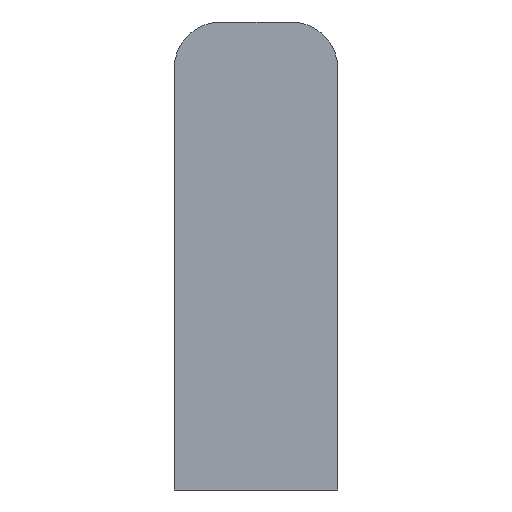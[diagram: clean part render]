
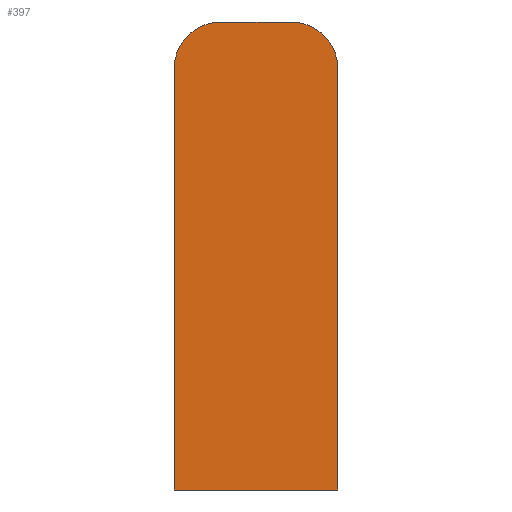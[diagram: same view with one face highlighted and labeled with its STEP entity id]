
A CAD part, front view. The second image highlights one B-rep face of the part: STEP entity #397.
In plain terms, the highlighted planar face has unit normal (0, -1, 0).
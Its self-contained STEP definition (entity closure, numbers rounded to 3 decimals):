
#3 = CARTESIAN_POINT ( 'NONE',  ( -2.25, 0., 13.5 ) ) ;
#4 = VERTEX_POINT ( 'NONE', #7 ) ;
#7 = CARTESIAN_POINT ( 'NONE',  ( -5.25, 0., 10.5 ) ) ;
#10 = VERTEX_POINT ( 'NONE', #101 ) ;
#11 = VERTEX_POINT ( 'NONE', #3 ) ;
#16 = VERTEX_POINT ( 'NONE', #96 ) ;
#18 = AXIS2_PLACEMENT_3D ( 'NONE', #139, #144, #142 ) ;
#23 = EDGE_CURVE ( 'NONE', #97, #11, #255, .T. ) ;
#30 = AXIS2_PLACEMENT_3D ( 'NONE', #185, #188, #189 ) ;
#31 = AXIS2_PLACEMENT_3D ( 'NONE', #128, #88, #90 ) ;
#40 = EDGE_CURVE ( 'NONE', #16, #10, #250, .T. ) ;
#45 = EDGE_CURVE ( 'NONE', #11, #4, #79, .T. ) ;
#50 = EDGE_CURVE ( 'NONE', #4, #95, #285, .T. ) ;
#51 = EDGE_CURVE ( 'NONE', #95, #16, #82, .T. ) ;
#52 = EDGE_CURVE ( 'NONE', #10, #97, #83, .T. ) ;
#79 = CIRCLE ( 'NONE', #18, 3. ) ;
#81 = VECTOR ( 'NONE', #154, 1000. ) ;
#82 = LINE ( 'NONE', #153, #81 ) ;
#83 = CIRCLE ( 'NONE', #31, 3. ) ;
#84 = VECTOR ( 'NONE', #151, 1000. ) ;
#88 = DIRECTION ( 'NONE',  ( 0., -1., 0. ) ) ;
#90 = DIRECTION ( 'NONE',  ( -1., 0., 0. ) ) ;
#95 = VERTEX_POINT ( 'NONE', #162 ) ;
#96 = CARTESIAN_POINT ( 'NONE',  ( 5.25, 0., -16.5 ) ) ;
#97 = VERTEX_POINT ( 'NONE', #177 ) ;
#101 = CARTESIAN_POINT ( 'NONE',  ( 5.25, 0., 10.5 ) ) ;
#114 = CARTESIAN_POINT ( 'NONE',  ( 2.25, 0., 13.5 ) ) ;
#115 = DIRECTION ( 'NONE',  ( -1., 0., 0. ) ) ;
#128 = CARTESIAN_POINT ( 'NONE',  ( 2.25, 0., 10.5 ) ) ;
#130 = CARTESIAN_POINT ( 'NONE',  ( 5.25, 0., -16.5 ) ) ;
#131 = DIRECTION ( 'NONE',  ( 0., 0., 1. ) ) ;
#139 = CARTESIAN_POINT ( 'NONE',  ( -2.25, 0., 10.5 ) ) ;
#142 = DIRECTION ( 'NONE',  ( -1., 0., 0. ) ) ;
#144 = DIRECTION ( 'NONE',  ( 0., -1., 0. ) ) ;
#151 = DIRECTION ( 'NONE',  ( 0., 0., -1. ) ) ;
#152 = CARTESIAN_POINT ( 'NONE',  ( -5.25, 0., -16.5 ) ) ;
#153 = CARTESIAN_POINT ( 'NONE',  ( 5.25, 0., -16.5 ) ) ;
#154 = DIRECTION ( 'NONE',  ( 1., 0., 0. ) ) ;
#162 = CARTESIAN_POINT ( 'NONE',  ( -5.25, 0., -16.5 ) ) ;
#177 = CARTESIAN_POINT ( 'NONE',  ( 2.25, 0., 13.5 ) ) ;
#185 = CARTESIAN_POINT ( 'NONE',  ( 0., 0., -1.5 ) ) ;
#186 = PLANE ( 'NONE',  #30 ) ;
#188 = DIRECTION ( 'NONE',  ( 0., 1., 0. ) ) ;
#189 = DIRECTION ( 'NONE',  ( -1., 0., 0. ) ) ;
#250 = LINE ( 'NONE', #130, #311 ) ;
#254 = VECTOR ( 'NONE', #115, 1000. ) ;
#255 = LINE ( 'NONE', #114, #254 ) ;
#280 = ORIENTED_EDGE ( 'NONE', *, *, #45, .T. ) ;
#285 = LINE ( 'NONE', #152, #84 ) ;
#287 = ORIENTED_EDGE ( 'NONE', *, *, #40, .T. ) ;
#304 = ORIENTED_EDGE ( 'NONE', *, *, #50, .T. ) ;
#311 = VECTOR ( 'NONE', #131, 1000. ) ;
#312 = ORIENTED_EDGE ( 'NONE', *, *, #23, .T. ) ;
#313 = ORIENTED_EDGE ( 'NONE', *, *, #52, .T. ) ;
#331 = ORIENTED_EDGE ( 'NONE', *, *, #51, .T. ) ;
#332 = EDGE_LOOP ( 'NONE', ( #287, #313, #312, #280, #304, #331 ) ) ;
#371 = FACE_OUTER_BOUND ( 'NONE', #332, .T. ) ;
#397 = ADVANCED_FACE ( 'NONE', ( #371 ), #186, .F. ) ;
